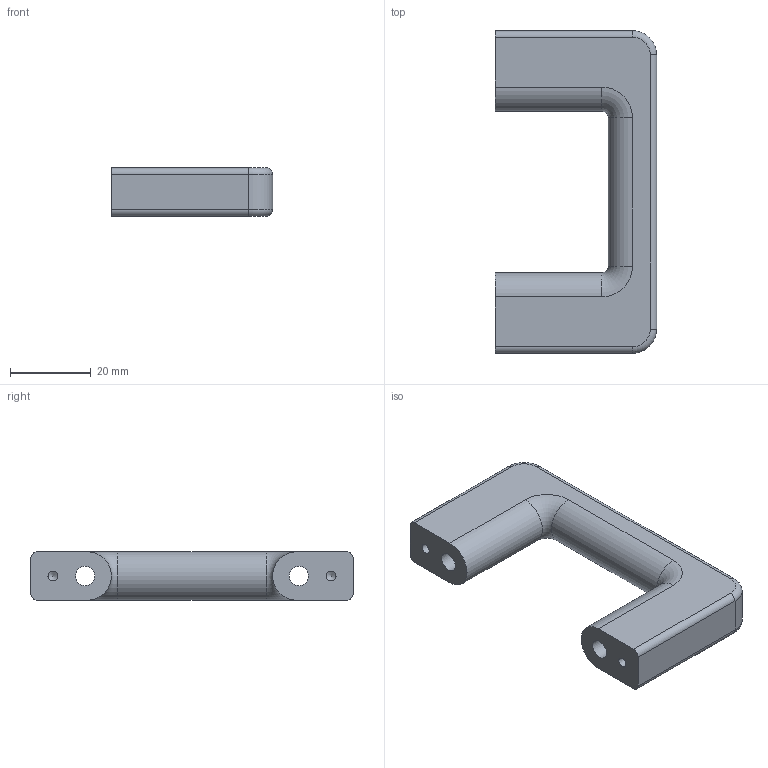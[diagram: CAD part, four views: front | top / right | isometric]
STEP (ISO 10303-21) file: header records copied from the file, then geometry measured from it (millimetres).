
FILE_DESCRIPTION(('STEP AP214'), '1');
FILE_NAME('ÖÊÔÑ.753733.007 Ðó÷êà', '2025-06-17T12:22:28', ('admin'), (''), 'ASCON STEP Converter 1.3', 'ASCON Math Kernel', '');
FILE_SCHEMA(('AUTOMOTIVE_DESIGN { 1 0 10303 214 3 1 1}'));
Length unit declared in the file: millimetre
Products named in the file (1): 窐婧.753733.007
Bounding box: 40 x 80 x 12 mm (x, y, z)
Volume: 20305.1 mm3; surface area: 8601.4 mm2
Topology: 1 solids, 1 shells, 43 faces, 100 edges, 62 vertices
Faces by surface type: cylinder 21, plane 12, torus 8, cone 2
Full cylindrical faces by diameter (mm): 2.459 x2, 4.8 x2, 8 x2
Entity records: 1572 total; most frequent: DIRECTION 230, CARTESIAN_POINT 194, ORIENTED_EDGE 180, AXIS2_PLACEMENT_3D 96, EDGE_CURVE 90, VERTEX_POINT 60, EDGE_LOOP 58, CIRCLE 52
